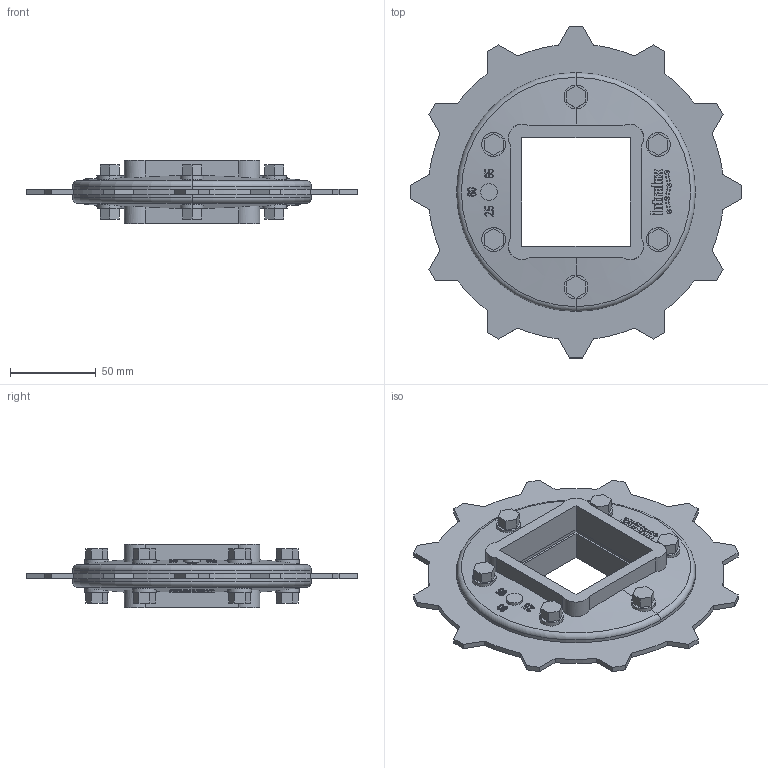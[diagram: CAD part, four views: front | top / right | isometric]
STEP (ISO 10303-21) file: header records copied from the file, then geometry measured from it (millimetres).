
FILE_DESCRIPTION((''),'2;1');
FILE_NAME('S400_SPL_METAL_78X25_60_65_SQ_ASM','2008-12-12T',('jmumphre'),(''),'PRO/ENGINEER BY PARAMETRIC TECHNOLOGY CORPORATION, 2008150','PRO/ENGINEER BY PARAMETRIC TECHNOLOGY CORPORATION, 2008150','');
FILE_SCHEMA(('CONFIG_CONTROL_DESIGN'));
Length unit declared in the file: inch
Products named in the file (5): S400_TP_METAL_78X26_SQ_AF2; JOINING_PLATE_6X25_60_65_SQ_AF4; JOINING_PLATE_6X25_60_65_SQ_AF5; BOLTS_N_NUTS_4-376X0-750_AF5; S400_SPL_METAL_78X25_60_65_SQ_ASM
Assembly tree (4 placements, depth 2):
  S400_SPL_METAL_78X25_60_65_SQ_ASM
    S400_TP_METAL_78X26_SQ_AF2
    JOINING_PLATE_6X25_60_65_SQ_AF4
    JOINING_PLATE_6X25_60_65_SQ_AF5
    BOLTS_N_NUTS_4-376X0-750_AF5
Bounding box: 194.01 x 194.01 x 37.08 mm (x, y, z)
Volume: 253617.6 mm3; surface area: 117698 mm2
Topology: 9 solids, 9 shells, 1290 faces, 3578 edges, 2380 vertices
Faces by surface type: plane 954, cylinder 276, cone 56, torus 4
Entity records: 44983 total; most frequent: CARTESIAN_POINT 15469, ORIENTED_EDGE 7156, DIRECTION 4384, EDGE_CURVE 3578, VERTEX_POINT 2380, B_SPLINE_CURVE_WITH_KNOTS 1964, AXIS2_PLACEMENT_3D 1471, VECTOR 1442
